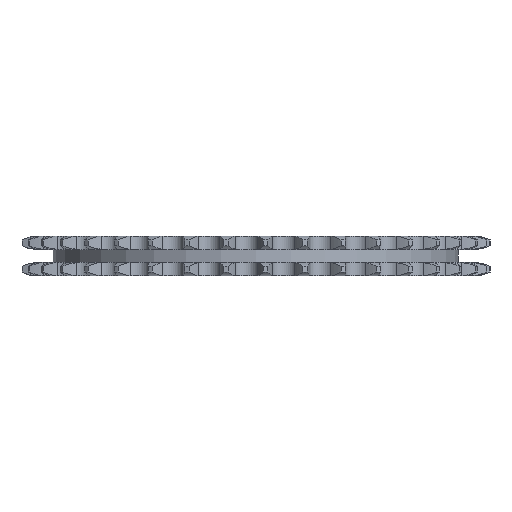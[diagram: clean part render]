
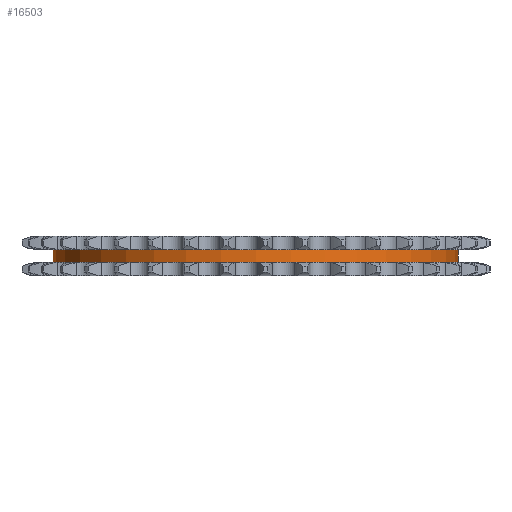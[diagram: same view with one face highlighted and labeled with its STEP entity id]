
A CAD part, left-side view. The second image highlights one B-rep face of the part: STEP entity #16503.
In plain terms, the highlighted cylindrical face has radius 42.166 mm (diameter 84.333 mm), a partial arc.
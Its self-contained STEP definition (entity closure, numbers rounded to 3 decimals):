
#2080=DIRECTION('',(0.,0.,-1.));
#2081=VECTOR('',#2080,2.7);
#2082=CARTESIAN_POINT('',(0.,42.167,1.35));
#2083=LINE('',#2082,#2081);
#2087=CARTESIAN_POINT('',(0.,0.,1.35));
#2088=DIRECTION('',(0.,0.,1.));
#2089=DIRECTION('',(0.,1.,0.));
#2090=AXIS2_PLACEMENT_3D('',#2087,#2088,#2089);
#2095=DIRECTION('',(0.,0.,-1.));
#2096=VECTOR('',#2095,2.7);
#2097=CARTESIAN_POINT('',(0.,-42.167,1.35));
#2098=LINE('',#2097,#2096);
#2102=CARTESIAN_POINT('',(0.,0.,-1.35));
#2103=DIRECTION('',(0.,0.,1.));
#2104=DIRECTION('',(0.,1.,0.));
#2105=AXIS2_PLACEMENT_3D('',#2102,#2103,#2104);
#12734=CARTESIAN_POINT('',(0.,42.167,1.35));
#12735=CARTESIAN_POINT('',(0.,42.167,-1.35));
#12736=VERTEX_POINT('',#12734);
#12737=VERTEX_POINT('',#12735);
#12738=CARTESIAN_POINT('',(0.,-42.167,1.35));
#12739=CARTESIAN_POINT('',(0.,-42.167,-1.35));
#12740=VERTEX_POINT('',#12738);
#12741=VERTEX_POINT('',#12739);
#16491=CARTESIAN_POINT('',(0.,0.,1.485));
#16492=DIRECTION('',(0.,0.,-1.));
#16493=DIRECTION('',(0.,-1.,0.));
#16494=AXIS2_PLACEMENT_3D('',#16491,#16492,#16493);
#16495=CYLINDRICAL_SURFACE('',#16494,42.167);
#16496=ORIENTED_EDGE('',*,*,#16481,.F.);
#16497=ORIENTED_EDGE('',*,*,#16471,.T.);
#16498=ORIENTED_EDGE('',*,*,#16485,.T.);
#16500=ORIENTED_EDGE('',*,*,#16499,.F.);
#16501=EDGE_LOOP('',(#16496,#16497,#16498,#16500));
#16502=FACE_OUTER_BOUND('',#16501,.F.);
#16503=ADVANCED_FACE('',(#16502),#16495,.T.);
#2091=CIRCLE('',#2090,42.167);
#2106=CIRCLE('',#2105,42.167);
#16471=EDGE_CURVE('',#12736,#12740,#2091,.T.);
#16481=EDGE_CURVE('',#12736,#12737,#2083,.T.);
#16485=EDGE_CURVE('',#12740,#12741,#2098,.T.);
#16499=EDGE_CURVE('',#12737,#12741,#2106,.T.);
